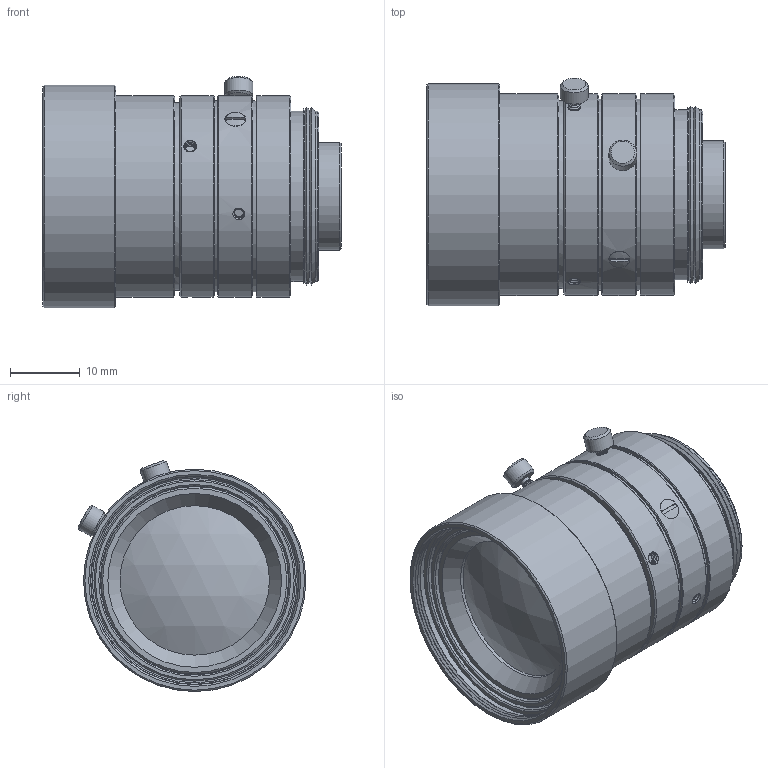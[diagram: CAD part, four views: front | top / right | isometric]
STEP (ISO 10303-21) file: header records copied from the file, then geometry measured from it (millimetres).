
FILE_DESCRIPTION(/* description */ (''),/* implementation_level */ '2;1');
FILE_NAME(/* name */ 'C:\#Vault-WorkDir\Konstruktions-Dokumente\Projekte\VISOR\Zubehör\153-13653_Objektiv LOC-08-HD-30.5x0,5.stp',/* time_stamp */ '2020-03-26T08:39:45+01:00',/* author */ ('SensoPart'),/* organization */ ('SensoPart'),/* preprocessor_version */ 'ST-DEVELOPER v17',/* originating_system */ 'Autodesk Inventor 2018',/* authorisation */ '');
FILE_SCHEMA (('AUTOMOTIVE_DESIGN { 1 0 10303 214 3 1 1 }'));
Length unit declared in the file: millimetre
Products named in the file (1): GH-ENG-0031355
Bounding box: 42.92 x 32.78 x 33.26 mm (x, y, z)
Volume: 23400.4 mm3; surface area: 10004.7 mm2
Topology: 1 solids, 6 shells, 242 faces, 644 edges, 447 vertices
Faces by surface type: cone 124, cylinder 58, plane 55, sphere 5
Full cylindrical faces by diameter (mm): 1.3 x2, 1.5 x4, 2 x4, 4 x2, 10 x1, 10.6 x1, 13 x1, 14.5 x1, 15.5 x1, 19.5 x1, 21.5 x1, 22.5 x1, 23.7 x1, 24.5 x2, 26.2 x1, 27 x1, 27.2 x1, 27.5 x3, 28 x2, 29 x5, 29.5 x1, 31 x1, 32 x1
Entity records: 8308 total; most frequent: CARTESIAN_POINT 1789, DIRECTION 1516, ORIENTED_EDGE 1288, AXIS2_PLACEMENT_3D 655, EDGE_CURVE 644, VERTEX_POINT 447, CIRCLE 412, EDGE_LOOP 291
